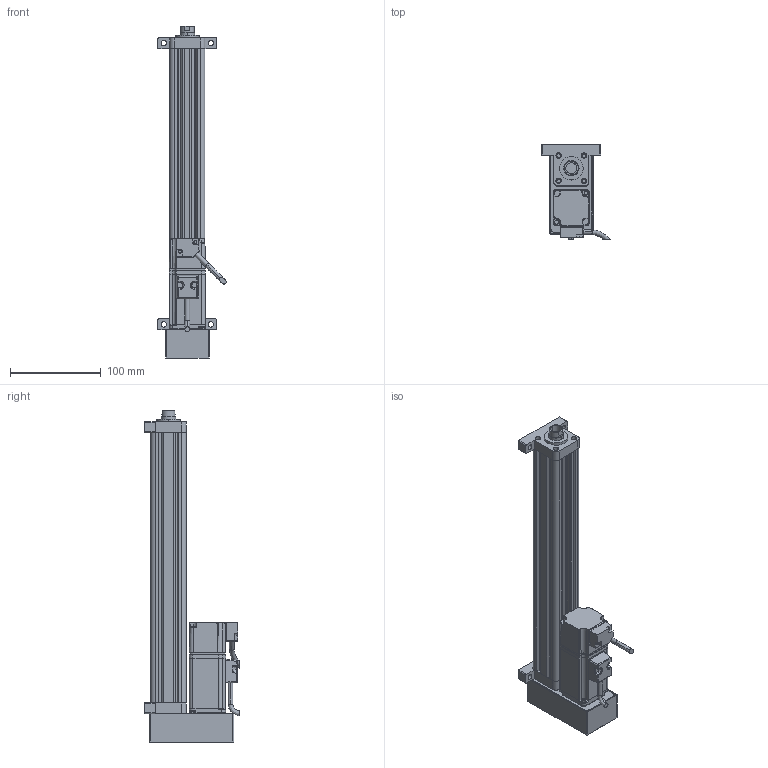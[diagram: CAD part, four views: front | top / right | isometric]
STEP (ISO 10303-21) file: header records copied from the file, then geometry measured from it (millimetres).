
FILE_DESCRIPTION (( 'STEP AP214' ), '1' );
FILE_NAME ('039-S250-D02-B-M2-C2-2.STEP', '2021-02-25T08:50:07', ( '' ), ( '' ), 'SwSTEP 2.0', 'SolidWorks 2018', '' );
FILE_SCHEMA (( 'AUTOMOTIVE_DESIGN' ));
Length unit declared in the file: millimetre
Products named in the file (8): CMC039-XT; 039-S250-D02-B-M2-C2-2; CMC039-LJB; CMC039-HDB; CMC039-QDB; ECMA-CX0401ES-40框號系列機種-100W低慣量系列; CMC039-GT; CMC039-DT
Assembly tree (7 placements, depth 2):
  039-S250-D02-B-M2-C2-2
    CMC039-GT
    CMC039-LJB
    CMC039-XT
    CMC039-DT
    ECMA-CX0401ES-40框號系列機種-100W低慣量系列
    CMC039-QDB
    CMC039-HDB
Bounding box: 75.34 x 104.89 x 366 mm (x, y, z)
Volume: 504441.7 mm3; surface area: 184958.1 mm2
Topology: 7 solids, 15 shells, 634 faces, 1654 edges, 1031 vertices
Faces by surface type: cylinder 260, plane 253, bspline 84, cone 37
Entity records: 25486 total; most frequent: CARTESIAN_POINT 10811, ORIENTED_EDGE 3242, DIRECTION 2571, EDGE_CURVE 1621, VERTEX_POINT 1031, AXIS2_PLACEMENT_3D 878, VECTOR 815, LINE 815
